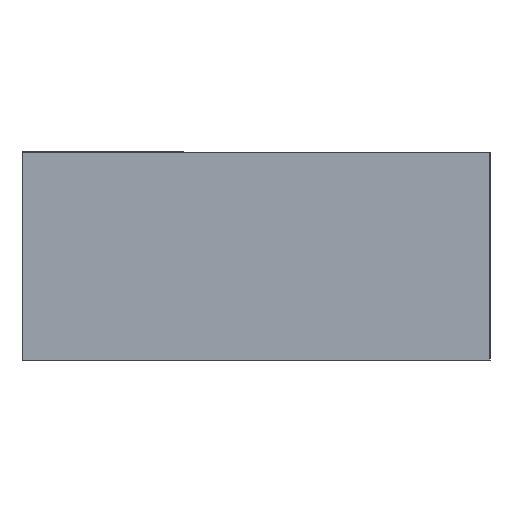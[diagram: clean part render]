
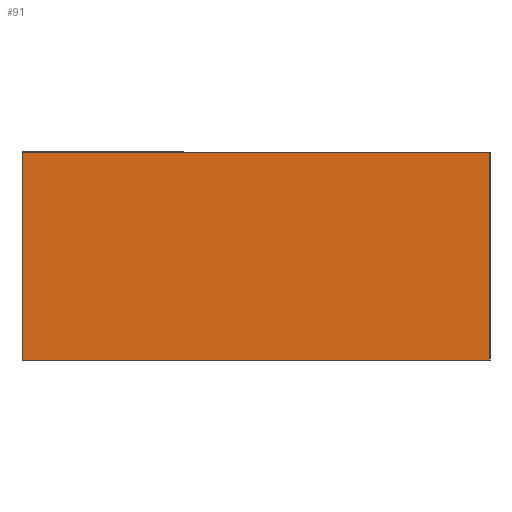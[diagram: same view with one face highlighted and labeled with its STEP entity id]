
A CAD part, left-side view. The second image highlights one B-rep face of the part: STEP entity #91.
In plain terms, the highlighted planar face has unit normal (-1, 0, 0).
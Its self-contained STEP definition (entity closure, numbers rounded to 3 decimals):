
#91 = ADVANCED_FACE( '', ( #128 ), #129, .F. );
#128 = FACE_OUTER_BOUND( '', #166, .T. );
#129 = PLANE( '', #167 );
#166 = EDGE_LOOP( '', ( #286, #287, #288, #289 ) );
#167 = AXIS2_PLACEMENT_3D( '', #290, #291, #292 );
#286 = ORIENTED_EDGE( '', *, *, #325, .F. );
#287 = ORIENTED_EDGE( '', *, *, #331, .F. );
#288 = ORIENTED_EDGE( '', *, *, #337, .F. );
#289 = ORIENTED_EDGE( '', *, *, #335, .T. );
#290 = CARTESIAN_POINT( '', ( -3.5, 0., 0. ) );
#291 = DIRECTION( '', ( 1., 0., 0. ) );
#292 = DIRECTION( '', ( 0., 0., -1. ) );
#325 = EDGE_CURVE( '', #379, #381, #382, .T. );
#331 = EDGE_CURVE( '', #389, #379, #391, .T. );
#335 = EDGE_CURVE( '', #396, #381, #397, .T. );
#337 = EDGE_CURVE( '', #396, #389, #399, .T. );
#379 = VERTEX_POINT( '', #496 );
#381 = VERTEX_POINT( '', #499 );
#382 = LINE( '', #500, #501 );
#389 = VERTEX_POINT( '', #512 );
#391 = LINE( '', #515, #516 );
#396 = VERTEX_POINT( '', #563 );
#397 = LINE( '', #564, #565 );
#399 = LINE( '', #568, #569 );
#496 = CARTESIAN_POINT( '', ( -3.5, -27., 6. ) );
#499 = CARTESIAN_POINT( '', ( -3.5, -27., -6. ) );
#500 = CARTESIAN_POINT( '', ( -3.5, -27., 6. ) );
#501 = VECTOR( '', #612, 1. );
#512 = CARTESIAN_POINT( '', ( -3.5, 0., 6. ) );
#515 = CARTESIAN_POINT( '', ( -3.5, 0., 6. ) );
#516 = VECTOR( '', #618, 1. );
#563 = CARTESIAN_POINT( '', ( -3.5, 0., -6. ) );
#564 = CARTESIAN_POINT( '', ( -3.5, 0., -6. ) );
#565 = VECTOR( '', #623, 1. );
#568 = CARTESIAN_POINT( '', ( -3.5, 0., -6. ) );
#569 = VECTOR( '', #625, 1. );
#612 = DIRECTION( '', ( 0., 0., -1. ) );
#618 = DIRECTION( '', ( 0., -1., 0. ) );
#623 = DIRECTION( '', ( 0., -1., 0. ) );
#625 = DIRECTION( '', ( 0., 0., 1. ) );
